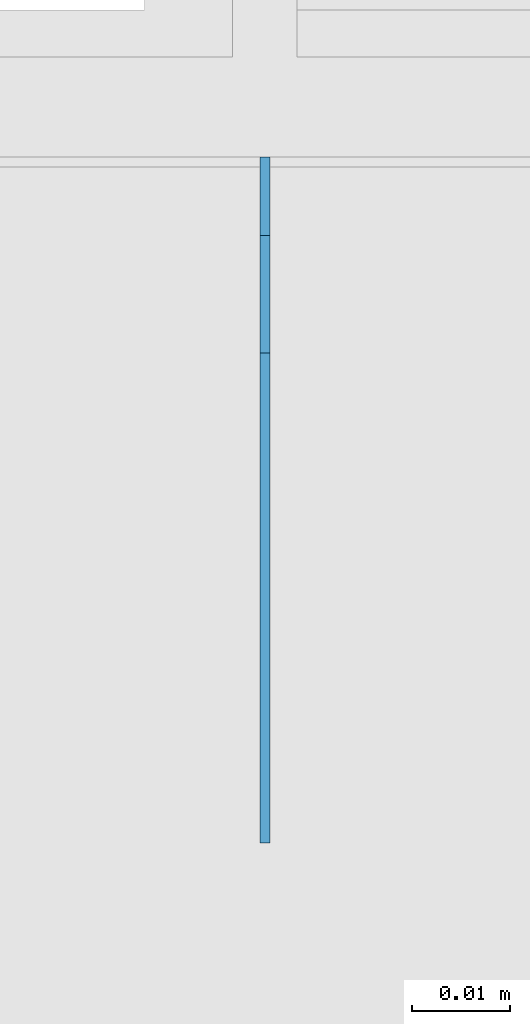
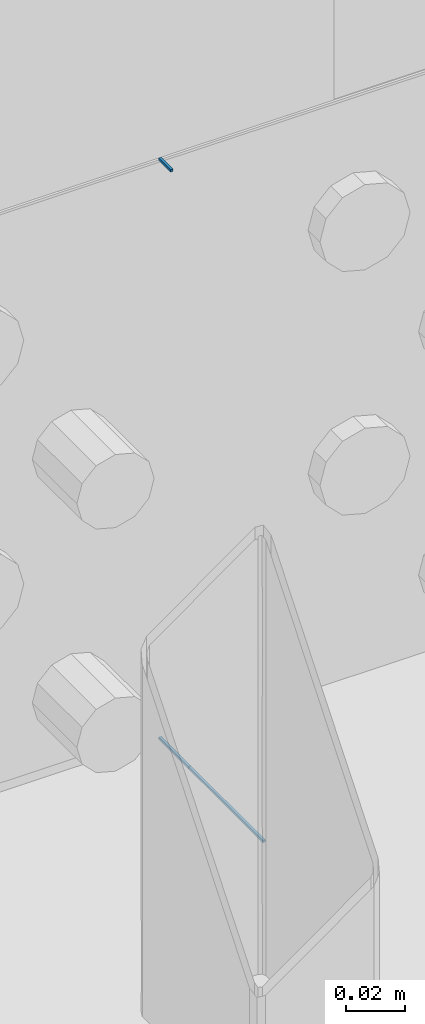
# One storey, part 101 of 186: 3 beams.
"""IFC4X3_ADD2 building model written with IfcOpenShell, lengths in millimetres."""

import ifcopenshell
import ifcopenshell.guid

model = None  # the IFC model being written
_history = None  # IfcOwnerHistory: only IFC2X3 demands one
_inside = {}  # id of a spatial element -> (the spatial element, [elements in it])
_under = {}  # id of a project, library or spatial element -> (it, [spatial elements below it])
_declared = {}  # id of a project -> (the project, [libraries it declares])
_typed = {}  # id of a type object -> (the type object, [elements of that type])
_made_of = {}  # id of a material, layer set ... -> (it, [elements and type objects made of it])


def new_model(schema):
    """Start an empty IFC model of exactly this schema.

    Asked for "IFC4X3", IfcOpenShell would pick the latest addendum, in which some entities
    have other attributes; the version numbers below select the first issue.
    IFC2X3 requires an IfcOwnerHistory on every rooted entity: one is made here for all.
    """
    global model, _history
    if schema == "IFC4X3":
        model = ifcopenshell.file(schema_version=(4, 3, 0, 0))
    else:
        model = ifcopenshell.file(schema=schema)
    _inside.clear()
    _under.clear()
    _declared.clear()
    _typed.clear()
    _made_of.clear()
    _history = None
    if model.schema == "IFC2X3":
        org = make("IfcOrganization", Name="unknown")
        user = make(
            "IfcPersonAndOrganization",
            ThePerson=make("IfcPerson", FamilyName="unknown"),
            TheOrganization=org,
        )
        app = make(
            "IfcApplication",
            ApplicationDeveloper=org,
            Version="unknown",
            ApplicationFullName="unknown",
            ApplicationIdentifier="unknown",
        )
        _history = make(
            "IfcOwnerHistory",
            OwningUser=user,
            OwningApplication=app,
            ChangeAction="ADDED",
            CreationDate=0,
        )
    return model


def make(cls, **values):
    """One entity of the class cls with the attributes given. An attribute that is None is left unset."""
    return model.create_entity(
        cls, **{name: value for name, value in values.items() if value is not None}
    )


def rooted(cls, **values):
    """An entity with a GlobalId (a new one), such as an element, a storey or a relation."""
    return make(cls, GlobalId=ifcopenshell.guid.new(), OwnerHistory=_history, **values)


def si_unit(unit_type, name, prefix=None):
    """IfcSIUnit, for example si_unit("LENGTHUNIT", "METRE", prefix="MILLI")."""
    return make("IfcSIUnit", UnitType=unit_type, Prefix=prefix, Name=name)


def assignment(units):
    """IfcUnitAssignment: the units of a project."""
    return None if units is None else make("IfcUnitAssignment", Units=units)


def point(xyz):
    """IfcCartesianPoint."""
    return None if xyz is None else make("IfcCartesianPoint", Coordinates=xyz)


def direction(xyz):
    """IfcDirection."""
    return None if xyz is None else make("IfcDirection", DirectionRatios=xyz)


def frame(location, z_axis=None, x_axis=None):
    """IfcAxis2Placement3D, a coordinate frame: its origin and axes. An axis left out is left unset."""
    return make(
        "IfcAxis2Placement3D",
        Location=point(location),
        Axis=direction(z_axis),
        RefDirection=direction(x_axis),
    )


def frame_2d(location, x_axis=None):
    """IfcAxis2Placement2D, a coordinate frame in the plane: its origin and x axis."""
    return make(
        "IfcAxis2Placement2D", Location=point(location), RefDirection=direction(x_axis)
    )


def origin_with_axes():
    """The frame at (0, 0, 0) with the z axis (0, 0, 1) and the x axis (1, 0, 0) written out."""
    return frame((0.0, 0.0, 0.0), z_axis=(0.0, 0.0, 1.0), x_axis=(1.0, 0.0, 0.0))


def place(relative_to, where):
    """IfcLocalPlacement: puts the frame where relative to a parent placement (None: the world)."""
    return make(
        "IfcLocalPlacement", PlacementRelTo=relative_to, RelativePlacement=where
    )


def context(
    kind, dimensions, precision=None, world=None, true_north=None, identifier=None
):
    """IfcGeometricRepresentationContext, for example the 3D "Model" context."""
    return make(
        "IfcGeometricRepresentationContext",
        ContextIdentifier=identifier,
        ContextType=kind,
        CoordinateSpaceDimension=dimensions,
        Precision=precision,
        WorldCoordinateSystem=world,
        TrueNorth=true_north,
    )


def subcontext(parent, identifier, kind, view, scale=None):
    """IfcGeometricRepresentationSubContext, for example "Body" below "Model"."""
    return make(
        "IfcGeometricRepresentationSubContext",
        ContextIdentifier=identifier,
        ContextType=kind,
        ParentContext=parent,
        TargetScale=scale,
        TargetView=view,
    )


def project(units=None, contexts=None):
    """IfcProject with its units and contexts."""
    return rooted(
        "IfcProject",
        Name="project",
        RepresentationContexts=contexts,
        UnitsInContext=assignment(units),
    )


def spatial(cls, under=None, at=None, **own):
    """A site, building, storey or space (cls), placed at a placement, below another one or the project."""
    s = rooted(cls, ObjectPlacement=at, **own)
    if under is not None:
        _under.setdefault(under.id(), (under, []))[1].append(s)
    return s


def profile(cls, at=None, kind="AREA", **sizes):
    """A parametric profile (cls). Its sizes go by their IFC names, for example OverallWidth=200.0."""
    return make(cls, ProfileType=kind, Position=at, **sizes)


def rectangle(**sizes):
    """IfcRectangleProfileDef."""
    return profile("IfcRectangleProfileDef", **sizes)


def extrude(swept, where, along, depth):
    """IfcExtrudedAreaSolid: the profile swept, set in the frame where, extruded along a direction by depth."""
    return make(
        "IfcExtrudedAreaSolid",
        SweptArea=swept,
        Position=where,
        ExtrudedDirection=direction(along),
        Depth=depth,
    )


def shape(context_of_items, identifier, shape_type, items):
    """IfcShapeRepresentation: the items that make up one representation, for example the "Body"."""
    return make(
        "IfcShapeRepresentation",
        ContextOfItems=context_of_items,
        RepresentationIdentifier=identifier,
        RepresentationType=shape_type,
        Items=items,
    )


def material(Name=None, Category=None):
    """IfcMaterial."""
    return make("IfcMaterial", Name=Name, Category=Category)


def made_of(thing, what):
    """Note that an element or type object is made of a material, layer set ...; save() writes the relation."""
    if what is not None:
        _made_of.setdefault(what.id(), (what, []))[1].append(thing)
    return thing


def element(
    cls,
    number,
    at=None,
    inside=None,
    cuts=None,
    type_object=None,
    material=None,
    context=None,
    identifier="Body",
    shape_type=None,
    held_by="IfcProductDefinitionShape",
    body=None,
    shapes=None,
    **own,
):
    """One element of the class cls, such as IfcWall. Its Tag is "e" and its number.

    at: its placement. inside: the storey or other place that contains it. cuts: it is an
    opening in that element (IfcRelVoidsElement). A single representation is given by context,
    identifier, shape_type and body (its items); several are given by shapes. held_by: the class
    of the entity that holds the representations. save() writes the other relations.
    """
    e = rooted(cls, Tag="e%d" % number, ObjectPlacement=at, **own)
    if body is not None:
        shapes = [shape(context, identifier, shape_type, body)]
    if shapes is not None:
        e.Representation = make(held_by, Representations=shapes)
    if inside is not None:
        _inside.setdefault(inside.id(), (inside, []))[1].append(e)
    if cuts is not None:
        rooted(
            "IfcRelVoidsElement", RelatingBuildingElement=cuts, RelatedOpeningElement=e
        )
    if type_object is not None:
        _typed.setdefault(type_object.id(), (type_object, []))[1].append(e)
    return made_of(e, material)


def aggregate(whole, parts):
    """IfcRelAggregates: a whole, such as a stair, and the parts it consists of."""
    return rooted("IfcRelAggregates", RelatingObject=whole, RelatedObjects=parts)


def save(model, path):
    """Write the relations noted so far, then the file.

    IfcRelAggregates (storeys below a building ...), IfcRelContainedInSpatialStructure (elements
    in a storey), IfcRelDefinesByType, IfcRelAssociatesMaterial and IfcRelDeclares: one each for
    every whole, place, type object, material and project.
    """
    for whole, parts in _under.values():
        aggregate(whole, parts)
    for where, things in _inside.values():
        rooted(
            "IfcRelContainedInSpatialStructure",
            RelatedElements=things,
            RelatingStructure=where,
        )
    for kind, things in _typed.values():
        rooted("IfcRelDefinesByType", RelatedObjects=things, RelatingType=kind)
    for what, things in _made_of.values():
        rooted("IfcRelAssociatesMaterial", RelatedObjects=things, RelatingMaterial=what)
    for by, libraries in _declared.values():
        rooted("IfcRelDeclares", RelatingContext=by, RelatedDefinitions=libraries)
    model.write(path)


model = new_model("IFC4X3_ADD2")

# Units and contexts
model_context = context("Model", 3, precision=1e-05, world=origin_with_axes(), true_north=direction((0.0, 1.0)))
body_context = subcontext(model_context, "Body", "Model", "MODEL_VIEW")
ifc_project = project(units=[si_unit("LENGTHUNIT", "METRE", prefix="MILLI"), si_unit("AREAUNIT", "SQUARE_METRE"), si_unit("VOLUMEUNIT", "CUBIC_METRE"), si_unit("PLANEANGLEUNIT", "RADIAN"), si_unit("TIMEUNIT", "SECOND"), si_unit("MASSUNIT", "GRAM")], contexts=[model_context])

# Site, building, storey
site_placement = place(None, origin_with_axes())
site = spatial("IfcSite", under=ifc_project, at=site_placement, Name="Site", CompositionType="ELEMENT")
building_placement = place(site_placement, origin_with_axes())
building = spatial("IfcBuilding", under=site, at=building_placement, Name="IFC Building Story")
storey_placement = place(building_placement, frame((0.0, 0.0, 4370.0), z_axis=(0.0, 0.0, 1.0), x_axis=(1.0, 0.0, 0.0)))
storey = spatial("IfcBuildingStorey", under=building, at=storey_placement, Name="ETAGE 10 (1)", Elevation=4370.0)

# Beams
ifc_material_1 = material(Name="STEEL/Accessory_invisible")
beam_1_placement = place(storey_placement, frame((22155.689, 17934.9997253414, 3841.801368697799), z_axis=(1.0, 0.0, 0.0), x_axis=(0.0, 0.0, 1.0)))
element("IfcBeam", 1, at=beam_1_placement, inside=storey, material=ifc_material_1, Name="ZW1", ObjectType="1*1 14", context=body_context, shape_type="SweptSolid", body=[
    extrude(rectangle(XDim=0.9999999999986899, YDim=50.0, at=frame_2d((0.0, 5.95523630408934e-12), x_axis=(1.0, 0.0))), origin_with_axes(), (0.0, 0.0, 1.0), 1.0),
])
beam_2_placement = place(storey_placement, frame((22155.689, 17975.9989318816, 4079.500419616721), z_axis=(1.0, 0.0, 0.0), x_axis=(0.0, 0.0, 1.0)))
element("IfcBeam", 2, at=beam_2_placement, inside=storey, material=ifc_material_1, Name="ZW1", ObjectType="1*1 15", context=body_context, shape_type="SweptSolid", body=[
    extrude(rectangle(XDim=0.9999999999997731, YDim=7.99999999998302, at=frame_2d((0.0, 5.95523630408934e-12), x_axis=(1.0, 0.0))), origin_with_axes(), (0.0, 0.0, 1.0), 1.0),
])
ifc_material_2 = material(Name="STEEL/Accessory_invisible 261")
beam_3_placement = place(storey_placement, frame((22155.689, 17969.9997253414, 3841.80136869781), z_axis=(1.0, 0.0, 0.0), x_axis=(0.0, 0.0, 1.0)))
element("IfcBeam", 3, at=beam_3_placement, inside=storey, material=ifc_material_2, Name="PR10", ObjectType="1*1 13", context=body_context, shape_type="SweptSolid", body=[
    extrude(rectangle(XDim=0.9999999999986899, YDim=20.0, at=frame_2d((0.0, 5.95523630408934e-12), x_axis=(1.0, 0.0))), origin_with_axes(), (0.0, 0.0, 1.0), 1.0),
])

save(model, "model.ifc")
